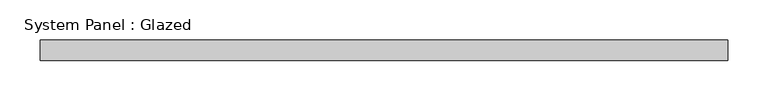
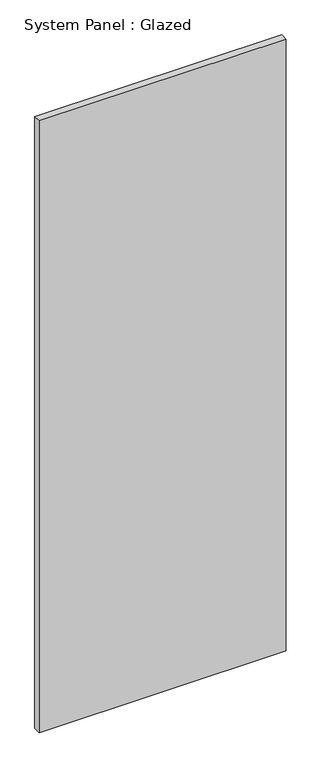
"""IFC4 building model written with IfcOpenShell, lengths in millimetres: plate geometry, System Panel : Glazed."""

import ifcopenshell
import ifcopenshell.guid

model = None  # the IFC model being written
_history = None  # IfcOwnerHistory: only IFC2X3 demands one
_inside = {}  # id of a spatial element -> (the spatial element, [elements in it])
_under = {}  # id of a project, library or spatial element -> (it, [spatial elements below it])
_declared = {}  # id of a project -> (the project, [libraries it declares])
_typed = {}  # id of a type object -> (the type object, [elements of that type])
_made_of = {}  # id of a material, layer set ... -> (it, [elements and type objects made of it])


def new_model(schema):
    """Start an empty IFC model of exactly this schema.

    Asked for "IFC4X3", IfcOpenShell would pick the latest addendum, in which some entities
    have other attributes; the version numbers below select the first issue.
    IFC2X3 requires an IfcOwnerHistory on every rooted entity: one is made here for all.
    """
    global model, _history
    if schema == "IFC4X3":
        model = ifcopenshell.file(schema_version=(4, 3, 0, 0))
    else:
        model = ifcopenshell.file(schema=schema)
    _inside.clear()
    _under.clear()
    _declared.clear()
    _typed.clear()
    _made_of.clear()
    _history = None
    if model.schema == "IFC2X3":
        org = make("IfcOrganization", Name="unknown")
        user = make(
            "IfcPersonAndOrganization",
            ThePerson=make("IfcPerson", FamilyName="unknown"),
            TheOrganization=org,
        )
        app = make(
            "IfcApplication",
            ApplicationDeveloper=org,
            Version="unknown",
            ApplicationFullName="unknown",
            ApplicationIdentifier="unknown",
        )
        _history = make(
            "IfcOwnerHistory",
            OwningUser=user,
            OwningApplication=app,
            ChangeAction="ADDED",
            CreationDate=0,
        )
    return model


def make(cls, **values):
    """One entity of the class cls with the attributes given. An attribute that is None is left unset."""
    return model.create_entity(
        cls, **{name: value for name, value in values.items() if value is not None}
    )


def rooted(cls, **values):
    """An entity with a GlobalId (a new one), such as an element, a storey or a relation."""
    return make(cls, GlobalId=ifcopenshell.guid.new(), OwnerHistory=_history, **values)


def si_unit(unit_type, name, prefix=None):
    """IfcSIUnit, for example si_unit("LENGTHUNIT", "METRE", prefix="MILLI")."""
    return make("IfcSIUnit", UnitType=unit_type, Prefix=prefix, Name=name)


def assignment(units):
    """IfcUnitAssignment: the units of a project."""
    return None if units is None else make("IfcUnitAssignment", Units=units)


def point(xyz):
    """IfcCartesianPoint."""
    return None if xyz is None else make("IfcCartesianPoint", Coordinates=xyz)


def direction(xyz):
    """IfcDirection."""
    return None if xyz is None else make("IfcDirection", DirectionRatios=xyz)


def frame(location, z_axis=None, x_axis=None):
    """IfcAxis2Placement3D, a coordinate frame: its origin and axes. An axis left out is left unset."""
    return make(
        "IfcAxis2Placement3D",
        Location=point(location),
        Axis=direction(z_axis),
        RefDirection=direction(x_axis),
    )


def origin():
    """The frame at (0, 0, 0) with its axes left unset."""
    return frame((0.0, 0.0, 0.0))


def origin_with_axes():
    """The frame at (0, 0, 0) with the z axis (0, 0, 1) and the x axis (1, 0, 0) written out."""
    return frame((0.0, 0.0, 0.0), z_axis=(0.0, 0.0, 1.0), x_axis=(1.0, 0.0, 0.0))


def place(relative_to, where):
    """IfcLocalPlacement: puts the frame where relative to a parent placement (None: the world)."""
    return make(
        "IfcLocalPlacement", PlacementRelTo=relative_to, RelativePlacement=where
    )


def context(
    kind, dimensions, precision=None, world=None, true_north=None, identifier=None
):
    """IfcGeometricRepresentationContext, for example the 3D "Model" context."""
    return make(
        "IfcGeometricRepresentationContext",
        ContextIdentifier=identifier,
        ContextType=kind,
        CoordinateSpaceDimension=dimensions,
        Precision=precision,
        WorldCoordinateSystem=world,
        TrueNorth=true_north,
    )


def project(units=None, contexts=None):
    """IfcProject with its units and contexts."""
    return rooted(
        "IfcProject",
        Name="project",
        RepresentationContexts=contexts,
        UnitsInContext=assignment(units),
    )


def spatial(cls, under=None, at=None, **own):
    """A site, building, storey or space (cls), placed at a placement, below another one or the project."""
    s = rooted(cls, ObjectPlacement=at, **own)
    if under is not None:
        _under.setdefault(under.id(), (under, []))[1].append(s)
    return s


def polyline(points):
    """IfcPolyline through the points."""
    return make("IfcPolyline", Points=[point(p) for p in points])


def outline(outer, holes=None, kind="AREA"):
    """IfcArbitraryClosedProfileDef: a profile drawn as a closed curve; with holes, ...WithVoids."""
    if holes is None:
        return make("IfcArbitraryClosedProfileDef", ProfileType=kind, OuterCurve=outer)
    return make(
        "IfcArbitraryProfileDefWithVoids",
        ProfileType=kind,
        OuterCurve=outer,
        InnerCurves=holes,
    )


def extrude(swept, where, along, depth):
    """IfcExtrudedAreaSolid: the profile swept, set in the frame where, extruded along a direction by depth."""
    return make(
        "IfcExtrudedAreaSolid",
        SweptArea=swept,
        Position=where,
        ExtrudedDirection=direction(along),
        Depth=depth,
    )


def shape(context_of_items, identifier, shape_type, items):
    """IfcShapeRepresentation: the items that make up one representation, for example the "Body"."""
    return make(
        "IfcShapeRepresentation",
        ContextOfItems=context_of_items,
        RepresentationIdentifier=identifier,
        RepresentationType=shape_type,
        Items=items,
    )


def source(mapping_origin, context_of_items, identifier, shape_type, items):
    """IfcRepresentationMap: a shape defined once, which mapped items show again and again."""
    return make(
        "IfcRepresentationMap",
        MappingOrigin=mapping_origin,
        MappedRepresentation=shape(context_of_items, identifier, shape_type, items),
    )


def transform(
    local_origin,
    x_axis=None,
    y_axis=None,
    z_axis=None,
    scale=None,
    scale2=None,
    scale3=None,
    uniform=True,
):
    """IfcCartesianTransformationOperator3D, or its non-uniform kind. x_axis, y_axis, z_axis: its Axis1, 2, 3."""
    if uniform:
        return make(
            "IfcCartesianTransformationOperator3D",
            Axis1=direction(x_axis),
            Axis2=direction(y_axis),
            LocalOrigin=point(local_origin),
            Scale=scale,
            Axis3=direction(z_axis),
        )
    return make(
        "IfcCartesianTransformationOperator3DnonUniform",
        Axis1=direction(x_axis),
        Axis2=direction(y_axis),
        LocalOrigin=point(local_origin),
        Scale=scale,
        Axis3=direction(z_axis),
        Scale2=scale2,
        Scale3=scale3,
    )


def mapped(mapping_source, mapping_target):
    """IfcMappedItem: shows the shape of a source again, moved by a transform."""
    return make(
        "IfcMappedItem", MappingSource=mapping_source, MappingTarget=mapping_target
    )


def made_of(thing, what):
    """Note that an element or type object is made of a material, layer set ...; save() writes the relation."""
    if what is not None:
        _made_of.setdefault(what.id(), (what, []))[1].append(thing)
    return thing


def element(
    cls,
    number,
    at=None,
    inside=None,
    cuts=None,
    type_object=None,
    material=None,
    context=None,
    identifier="Body",
    shape_type=None,
    held_by="IfcProductDefinitionShape",
    body=None,
    shapes=None,
    **own,
):
    """One element of the class cls, such as IfcWall. Its Tag is "e" and its number.

    at: its placement. inside: the storey or other place that contains it. cuts: it is an
    opening in that element (IfcRelVoidsElement). A single representation is given by context,
    identifier, shape_type and body (its items); several are given by shapes. held_by: the class
    of the entity that holds the representations. save() writes the other relations.
    """
    e = rooted(cls, Tag="e%d" % number, ObjectPlacement=at, **own)
    if body is not None:
        shapes = [shape(context, identifier, shape_type, body)]
    if shapes is not None:
        e.Representation = make(held_by, Representations=shapes)
    if inside is not None:
        _inside.setdefault(inside.id(), (inside, []))[1].append(e)
    if cuts is not None:
        rooted(
            "IfcRelVoidsElement", RelatingBuildingElement=cuts, RelatedOpeningElement=e
        )
    if type_object is not None:
        _typed.setdefault(type_object.id(), (type_object, []))[1].append(e)
    return made_of(e, material)


def aggregate(whole, parts):
    """IfcRelAggregates: a whole, such as a stair, and the parts it consists of."""
    return rooted("IfcRelAggregates", RelatingObject=whole, RelatedObjects=parts)


def save(model, path):
    """Write the relations noted so far, then the file.

    IfcRelAggregates (storeys below a building ...), IfcRelContainedInSpatialStructure (elements
    in a storey), IfcRelDefinesByType, IfcRelAssociatesMaterial and IfcRelDeclares: one each for
    every whole, place, type object, material and project.
    """
    for whole, parts in _under.values():
        aggregate(whole, parts)
    for where, things in _inside.values():
        rooted(
            "IfcRelContainedInSpatialStructure",
            RelatedElements=things,
            RelatingStructure=where,
        )
    for kind, things in _typed.values():
        rooted("IfcRelDefinesByType", RelatedObjects=things, RelatingType=kind)
    for what, things in _made_of.values():
        rooted("IfcRelAssociatesMaterial", RelatedObjects=things, RelatingMaterial=what)
    for by, libraries in _declared.values():
        rooted("IfcRelDeclares", RelatingContext=by, RelatedDefinitions=libraries)
    model.write(path)


def system_panel_glazed_4f0944f6(model_context):
    return source(origin(), model_context, "Body", "SweptSolid", [
        extrude(outline(polyline([(425.0, -12.5), (-425.0, -12.5), (-425.0, 12.5), (425.0, 12.5), (425.0, -12.5)])), origin_with_axes(), (0.0, 0.0, 1.0), 2225.0),
    ])


if __name__ == "__main__":
    model = new_model("IFC4")
    model_context = context("Model", 3, world=origin())
    ifc_project = project(units=[si_unit("LENGTHUNIT", "METRE", prefix="MILLI")], contexts=[model_context])
    site = spatial("IfcSite", under=ifc_project)
    building = spatial("IfcBuilding", under=site)
    placement = place(None, origin())
    system_panel_glazed_shape = system_panel_glazed_4f0944f6(model_context)
    element("IfcPlate", 1, ObjectType="System Panel : Glazed", at=placement, inside=building, context=model_context, shape_type="MappedRepresentation", body=[
        mapped(system_panel_glazed_shape, transform((0.0, 0.0, 0.0), x_axis=(1.0, 0.0, 0.0), y_axis=(0.0, 1.0, 0.0), z_axis=(0.0, 0.0, 1.0))),
    ])
    save(model, "model.ifc")
